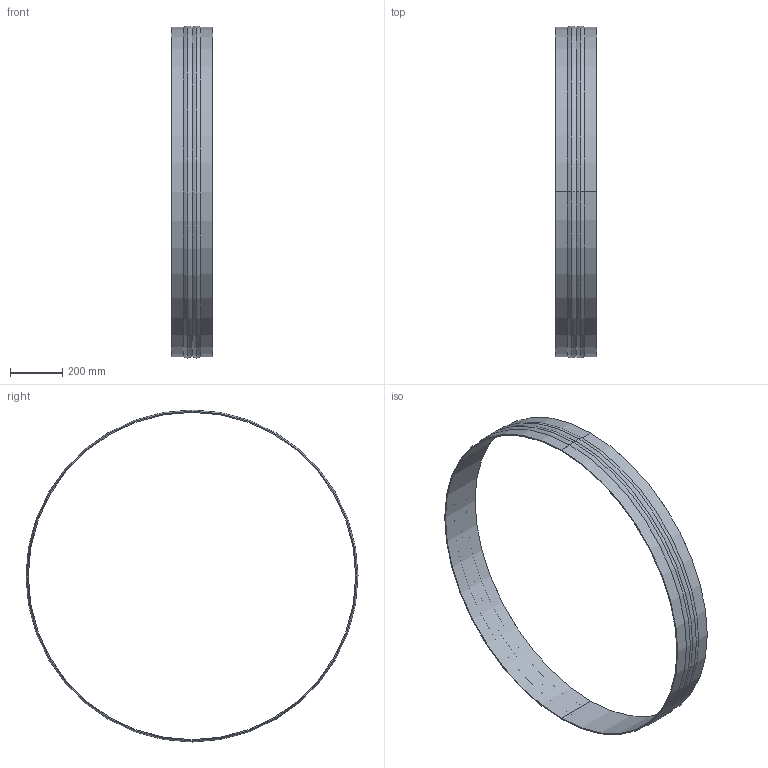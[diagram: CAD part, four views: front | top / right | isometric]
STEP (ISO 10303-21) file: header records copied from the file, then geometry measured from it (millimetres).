
FILE_DESCRIPTION(('STEP AP214'),'1');
FILE_NAME('accessory_5138892000.stp','2017-10-09T09:12:59',('TraceParts'),('TraceParts S.A.'),'Spatial InterOp 3D',' ',' ');
FILE_SCHEMA(('automotive_design'));
Length unit declared in the file: millimetre
Products named in the file (1): accessory_5138892000
Bounding box: 160 x 1269.6 x 1269.6 mm (x, y, z)
Volume: 3394039.9 mm3; surface area: 1308732 mm2
Topology: 1 solids, 1 shells, 16 faces, 32 edges, 18 vertices
Faces by surface type: torus 8, cylinder 6, plane 2
Entity records: 570 total; most frequent: DIRECTION 92, CARTESIAN_POINT 67, ORIENTED_EDGE 64, AXIS2_PLACEMENT_3D 43, EDGE_CURVE 32, CIRCLE 26, EDGE_LOOP 18, VERTEX_POINT 18
